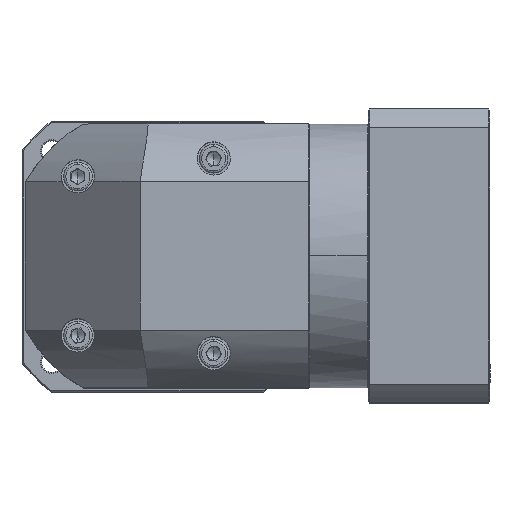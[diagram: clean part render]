
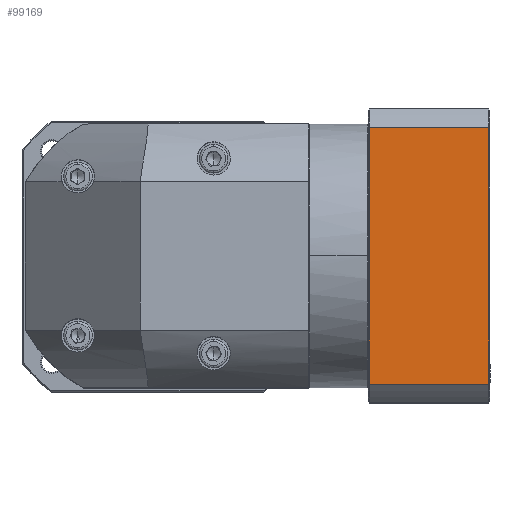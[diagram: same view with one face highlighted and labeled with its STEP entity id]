
A CAD part, top view. The second image highlights one B-rep face of the part: STEP entity #99169.
In plain terms, the highlighted planar face has unit normal (0, 0, 1).
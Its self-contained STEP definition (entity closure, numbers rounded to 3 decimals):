
#2316 = CARTESIAN_POINT ( 'NONE',  ( 137.235, 113.89, 76.137 ) ) ;
#7035 = CARTESIAN_POINT ( 'NONE',  ( 189.235, 121.953, 76.137 ) ) ;
#11734 = VECTOR ( 'NONE', #38776, 1000. ) ;
#14580 = EDGE_CURVE ( 'NONE', #77176, #106870, #94403, .T. ) ;
#15167 = VECTOR ( 'NONE', #82538, 1000. ) ;
#19540 = EDGE_CURVE ( 'NONE', #44085, #77176, #78309, .T. ) ;
#22510 = CARTESIAN_POINT ( 'NONE',  ( 189.735, 121.953, 76.137 ) ) ;
#22823 = LINE ( 'NONE', #88962, #129811 ) ;
#27383 = DIRECTION ( 'NONE',  ( 0., 1., 0. ) ) ;
#29847 = ORIENTED_EDGE ( 'NONE', *, *, #19540, .F. ) ;
#34561 = DIRECTION ( 'NONE',  ( -1., 0., 0. ) ) ;
#38776 = DIRECTION ( 'NONE',  ( 0., -1., 0. ) ) ;
#44085 = VERTEX_POINT ( 'NONE', #2316 ) ;
#57966 = FACE_OUTER_BOUND ( 'NONE', #80084, .T. ) ;
#58622 = LINE ( 'NONE', #97944, #76373 ) ;
#63809 = CARTESIAN_POINT ( 'NONE',  ( 189.235, 2.016, 76.137 ) ) ;
#64654 = DIRECTION ( 'NONE',  ( 0., -1., 0. ) ) ;
#66567 = EDGE_CURVE ( 'NONE', #106870, #72839, #58622, .T. ) ;
#72839 = VERTEX_POINT ( 'NONE', #131725 ) ;
#73033 = AXIS2_PLACEMENT_3D ( 'NONE', #22510, #74129, #64654 ) ;
#74129 = DIRECTION ( 'NONE',  ( 0., 0., -1. ) ) ;
#76373 = VECTOR ( 'NONE', #34561, 1000. ) ;
#77176 = VERTEX_POINT ( 'NONE', #95960 ) ;
#78309 = LINE ( 'NONE', #133847, #15167 ) ;
#80084 = EDGE_LOOP ( 'NONE', ( #29847, #132339, #126066, #91743 ) ) ;
#82379 = EDGE_CURVE ( 'NONE', #72839, #44085, #22823, .T. ) ;
#82538 = DIRECTION ( 'NONE',  ( 1., 0., 0. ) ) ;
#88962 = CARTESIAN_POINT ( 'NONE',  ( 137.235, 121.953, 76.137 ) ) ;
#91743 = ORIENTED_EDGE ( 'NONE', *, *, #14580, .F. ) ;
#94403 = LINE ( 'NONE', #7035, #11734 ) ;
#95960 = CARTESIAN_POINT ( 'NONE',  ( 189.235, 113.89, 76.137 ) ) ;
#97944 = CARTESIAN_POINT ( 'NONE',  ( -106.086, 2.016, 76.137 ) ) ;
#99169 = ADVANCED_FACE ( 'NONE', ( #57966 ), #104441, .F. ) ;
#104441 = PLANE ( 'NONE',  #73033 ) ;
#106870 = VERTEX_POINT ( 'NONE', #63809 ) ;
#126066 = ORIENTED_EDGE ( 'NONE', *, *, #66567, .F. ) ;
#129811 = VECTOR ( 'NONE', #27383, 1000. ) ;
#131725 = CARTESIAN_POINT ( 'NONE',  ( 137.235, 2.016, 76.137 ) ) ;
#132339 = ORIENTED_EDGE ( 'NONE', *, *, #82379, .F. ) ;
#133847 = CARTESIAN_POINT ( 'NONE',  ( -106.086, 113.89, 76.137 ) ) ;
